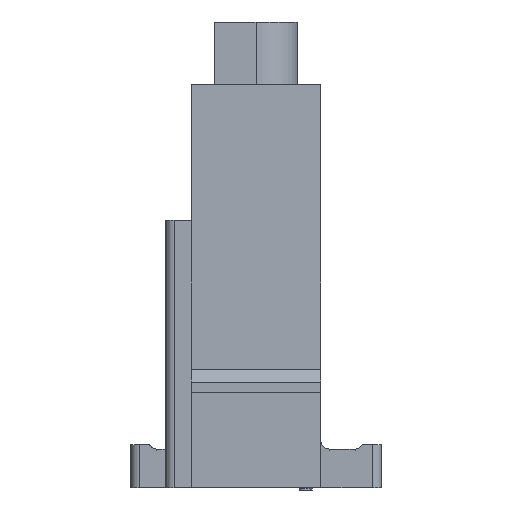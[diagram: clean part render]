
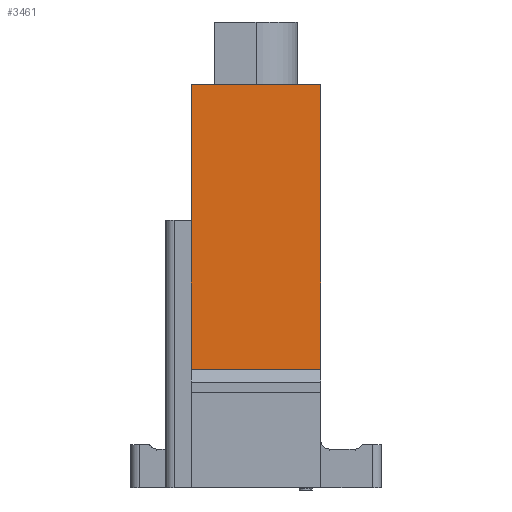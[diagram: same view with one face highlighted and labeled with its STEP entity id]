
A CAD part, front view. The second image highlights one B-rep face of the part: STEP entity #3461.
In plain terms, the highlighted planar face has unit normal (0, -1, 0.015).
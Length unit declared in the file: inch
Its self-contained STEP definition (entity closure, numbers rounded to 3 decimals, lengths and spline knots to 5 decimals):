
#1707 = VERTEX_POINT ( 'NONE', #5858 ) ;
#1708 = VERTEX_POINT ( 'NONE', #5859 ) ;
#1711 = VERTEX_POINT ( 'NONE', #5862 ) ;
#1712 = VERTEX_POINT ( 'NONE', #5863 ) ;
#1939 = EDGE_CURVE ( 'NONE', #1707, #1708, #5995, .T. ) ;
#1941 = EDGE_CURVE ( 'NONE', #1712, #1711, #5517, .T. ) ;
#1984 = EDGE_CURVE ( 'NONE', #1711, #1707, #6084, .T. ) ;
#2642 = EDGE_CURVE ( 'NONE', #1712, #1708, #6865, .T. ) ;
#2941 = EDGE_LOOP ( 'NONE', ( #3025, #3026, #3027, #3028 ) ) ;
#3025 = ORIENTED_EDGE ( 'NONE', *, *, #1941, .T. ) ;
#3026 = ORIENTED_EDGE ( 'NONE', *, *, #1984, .T. ) ;
#3027 = ORIENTED_EDGE ( 'NONE', *, *, #1939, .T. ) ;
#3028 = ORIENTED_EDGE ( 'NONE', *, *, #2642, .F. ) ;
#3461 = ADVANCED_FACE ( 'NONE', ( #7822 ), #7790, .T. ) ;
#5517 = LINE ( 'NONE', #5967, #5999 ) ;
#5858 = CARTESIAN_POINT ( 'NONE',  ( -0.15, -0.925, -0.80484 ) ) ;
#5859 = CARTESIAN_POINT ( 'NONE',  ( 0.15, -0.925, -0.80484 ) ) ;
#5862 = CARTESIAN_POINT ( 'NONE',  ( -0.15, -0.915, -0.14484 ) ) ;
#5863 = CARTESIAN_POINT ( 'NONE',  ( 0.15, -0.915, -0.14484 ) ) ;
#5965 = CARTESIAN_POINT ( 'NONE',  ( -0.15, -0.925, -0.80484 ) ) ;
#5966 = DIRECTION ( 'NONE',  ( 1., 0., 0. ) ) ;
#5967 = CARTESIAN_POINT ( 'NONE',  ( -0.15, -0.915, -0.14484 ) ) ;
#5971 = DIRECTION ( 'NONE',  ( -1., 0., 0. ) ) ;
#5995 = LINE ( 'NONE', #5965, #5996 ) ;
#5996 = VECTOR ( 'NONE', #5966, 39.37008 ) ;
#5999 = VECTOR ( 'NONE', #5971, 39.37008 ) ;
#6084 = LINE ( 'NONE', #6380, #6085 ) ;
#6085 = VECTOR ( 'NONE', #6381, 39.37008 ) ;
#6380 = CARTESIAN_POINT ( 'NONE',  ( -0.15, -0.915, -0.14484 ) ) ;
#6381 = DIRECTION ( 'NONE',  ( 0., -0.015, -1. ) ) ;
#6865 = LINE ( 'NONE', #7157, #6866 ) ;
#6866 = VECTOR ( 'NONE', #7158, 39.37008 ) ;
#7157 = CARTESIAN_POINT ( 'NONE',  ( 0.15, -0.915, -0.14484 ) ) ;
#7158 = DIRECTION ( 'NONE',  ( 0., -0.015, -1. ) ) ;
#7460 = AXIS2_PLACEMENT_3D ( 'NONE', #7793, #7799, #7800 ) ;
#7790 = PLANE ( 'NONE',  #7460 ) ;
#7793 = CARTESIAN_POINT ( 'NONE',  ( -0.15, -0.915, -0.14484 ) ) ;
#7799 = DIRECTION ( 'NONE',  ( 0., -1., 0.015 ) ) ;
#7800 = DIRECTION ( 'NONE',  ( 0., -0.015, -1. ) ) ;
#7822 = FACE_OUTER_BOUND ( 'NONE', #2941, .T. ) ;
